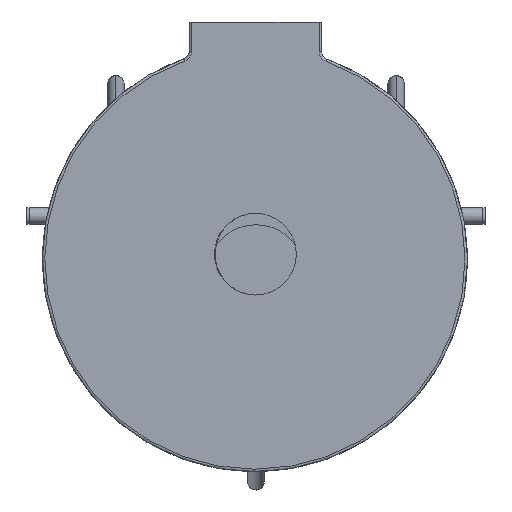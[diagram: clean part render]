
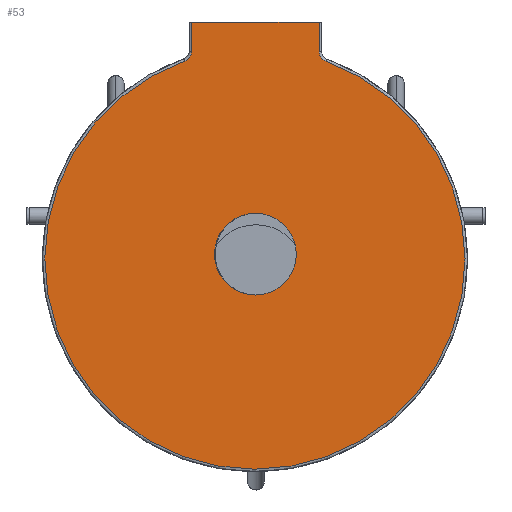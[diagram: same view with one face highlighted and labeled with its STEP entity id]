
A CAD part, top view. The second image highlights one B-rep face of the part: STEP entity #53.
In plain terms, the highlighted planar face has unit normal (0, 0, 1).
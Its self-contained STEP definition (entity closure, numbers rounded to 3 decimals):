
#43=FACE_BOUND('',#253,.T.);
#53=ADVANCED_FACE('',(#152,#43),#1516,.T.);
#152=FACE_OUTER_BOUND('',#252,.T.);
#252=EDGE_LOOP('',(#381,#382,#383,#384,#385,#386));
#253=EDGE_LOOP('',(#387,#388));
#381=ORIENTED_EDGE('',*,*,#806,.T.);
#382=ORIENTED_EDGE('',*,*,#812,.T.);
#383=ORIENTED_EDGE('',*,*,#798,.T.);
#384=ORIENTED_EDGE('',*,*,#828,.T.);
#385=ORIENTED_EDGE('',*,*,#819,.T.);
#386=ORIENTED_EDGE('',*,*,#825,.T.);
#387=ORIENTED_EDGE('',*,*,#823,.T.);
#388=ORIENTED_EDGE('',*,*,#833,.T.);
#798=EDGE_CURVE('',#1357,#1359,#1084,.T.);
#806=EDGE_CURVE('',#1363,#1361,#1086,.T.);
#812=EDGE_CURVE('',#1361,#1357,#1092,.T.);
#819=EDGE_CURVE('',#1353,#1352,#1206,.T.);
#823=EDGE_CURVE('',#1355,#1364,#1210,.T.);
#825=EDGE_CURVE('',#1352,#1363,#1211,.T.);
#828=EDGE_CURVE('',#1359,#1353,#1214,.T.);
#833=EDGE_CURVE('',#1364,#1355,#1218,.T.);
#1084=B_SPLINE_CURVE_WITH_KNOTS('',1,(#2152,#2153),.UNSPECIFIED.,.F.,.F.,
(2,2),(0.,35.587),.UNSPECIFIED.);
#1086=B_SPLINE_CURVE_WITH_KNOTS('',1,(#2171,#2172),.UNSPECIFIED.,.F.,.F.,
(2,2),(0.,36.01),.UNSPECIFIED.);
#1092=B_SPLINE_CURVE_WITH_KNOTS('',1,(#2183,#2184),.UNSPECIFIED.,.F.,.F.,
(2,2),(1666.469,1822.469),.UNSPECIFIED.);
#1206=TRIMMED_CURVE($,#1279,(#2202),(#2203),.T.,.CARTESIAN.);
#1210=TRIMMED_CURVE($,#1283,(#2214),(#2215),.T.,.CARTESIAN.);
#1211=TRIMMED_CURVE($,#1284,(#2219),(#2220),.T.,.CARTESIAN.);
#1214=TRIMMED_CURVE($,#1287,(#2228),(#2229),.T.,.CARTESIAN.);
#1218=TRIMMED_CURVE($,#1291,(#2242),(#2243),.T.,.CARTESIAN.);
#1279=CIRCLE('',#1702,257.);
#1283=CIRCLE('',#1706,50.);
#1284=CIRCLE('',#1707,13.);
#1287=CIRCLE('',#1710,13.);
#1291=CIRCLE('',#1714,50.);
#1352=VERTEX_POINT('',#2135);
#1353=VERTEX_POINT('',#2136);
#1355=VERTEX_POINT('',#2138);
#1357=VERTEX_POINT('',#2140);
#1359=VERTEX_POINT('',#2142);
#1361=VERTEX_POINT('',#2144);
#1363=VERTEX_POINT('',#2146);
#1364=VERTEX_POINT('',#2147);
#1516=PLANE('',#1687);
#1687=AXIS2_PLACEMENT_3D('',#2075,#1844,$);
#1702=AXIS2_PLACEMENT_3D($,#2201,#1867,#1868);
#1706=AXIS2_PLACEMENT_3D($,#2213,#1875,#1876);
#1707=AXIS2_PLACEMENT_3D($,#2218,#1877,#1878);
#1710=AXIS2_PLACEMENT_3D($,#2227,#1883,#1884);
#1714=AXIS2_PLACEMENT_3D($,#2241,#1891,#1892);
#1844=DIRECTION('',(0.,0.,1.));
#1867=DIRECTION('',(0.,0.,1.));
#1868=DIRECTION('',(-0.335,0.942,0.));
#1875=DIRECTION('',(0.,0.,-1.));
#1876=DIRECTION('',(1.,0.,0.));
#1877=DIRECTION('',(0.,0.,-1.));
#1878=DIRECTION('',(-0.339,-0.941,0.));
#1883=DIRECTION('',(0.,0.,-1.));
#1884=DIRECTION('',(1.,0.,0.));
#1891=DIRECTION('',(0.,0.,-1.));
#1892=DIRECTION('',(-1.,0.,0.));
#2075=CARTESIAN_POINT('',(-159.692,-426.517,751.759));
#2135=CARTESIAN_POINT('',(252.489,143.994,751.759));
#2136=CARTESIAN_POINT('',(79.252,144.397,751.759));
#2138=CARTESIAN_POINT('',(215.899,-91.71,751.759));
#2140=CARTESIAN_POINT('',(87.899,192.233,751.759));
#2142=CARTESIAN_POINT('',(87.899,156.646,751.759));
#2144=CARTESIAN_POINT('',(243.899,192.233,751.759));
#2146=CARTESIAN_POINT('',(243.899,156.223,751.759));
#2147=CARTESIAN_POINT('',(115.899,-91.71,751.759));
#2152=CARTESIAN_POINT('',(87.899,192.233,751.759));
#2153=CARTESIAN_POINT('',(87.899,156.646,751.759));
#2171=CARTESIAN_POINT('',(243.899,156.223,751.759));
#2172=CARTESIAN_POINT('',(243.899,192.233,751.759));
#2183=CARTESIAN_POINT('',(243.899,192.233,751.759));
#2184=CARTESIAN_POINT('',(87.899,192.233,751.759));
#2201=CARTESIAN_POINT('',(165.308,-97.767,751.759));
#2202=CARTESIAN_POINT('',(79.252,144.397,751.759));
#2203=CARTESIAN_POINT('',(252.489,143.994,751.759));
#2213=CARTESIAN_POINT('',(165.899,-91.71,751.759));
#2214=CARTESIAN_POINT('',(215.899,-91.71,751.759));
#2215=CARTESIAN_POINT('',(115.899,-91.71,751.759));
#2218=CARTESIAN_POINT('',(256.899,156.223,751.759));
#2219=CARTESIAN_POINT('',(252.489,143.994,751.759));
#2220=CARTESIAN_POINT('',(243.899,156.223,751.759));
#2227=CARTESIAN_POINT('',(74.899,156.646,751.759));
#2228=CARTESIAN_POINT('',(87.899,156.646,751.759));
#2229=CARTESIAN_POINT('',(79.252,144.397,751.759));
#2241=CARTESIAN_POINT('',(165.899,-91.71,751.759));
#2242=CARTESIAN_POINT('',(115.899,-91.71,751.759));
#2243=CARTESIAN_POINT('',(215.899,-91.71,751.759));
